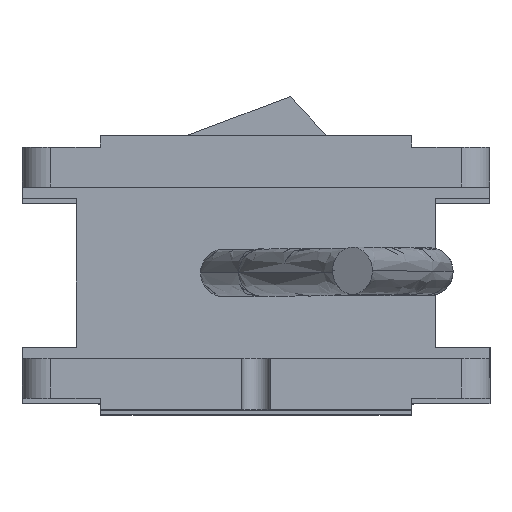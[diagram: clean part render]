
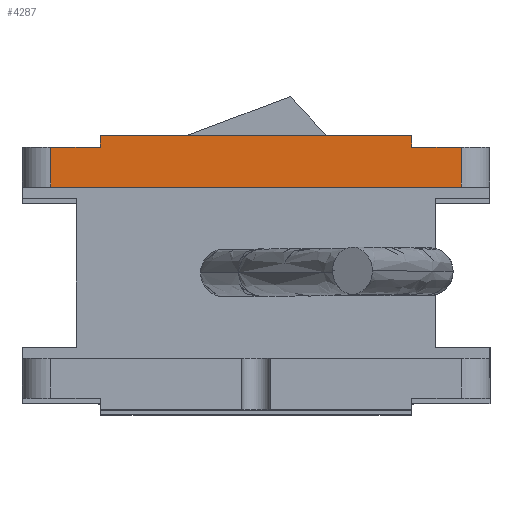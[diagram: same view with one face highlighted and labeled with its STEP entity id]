
A CAD part, top view. The second image highlights one B-rep face of the part: STEP entity #4287.
In plain terms, the highlighted planar face has unit normal (0, 0, 1).
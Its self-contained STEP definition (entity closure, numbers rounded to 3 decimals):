
#12 = CARTESIAN_POINT ( 'NONE',  ( 0., 0., 285.5 ) ) ;
#63 = EDGE_CURVE ( 'NONE', #4234, #1823, #881, .T. ) ;
#103 = FACE_OUTER_BOUND ( 'NONE', #4299, .T. ) ;
#124 = AXIS2_PLACEMENT_3D ( 'NONE', #12, #1228, #1905 ) ;
#227 = ORIENTED_EDGE ( 'NONE', *, *, #3923, .T. ) ;
#229 = DIRECTION ( 'NONE',  ( 0., 1., 0. ) ) ;
#323 = VECTOR ( 'NONE', #229, 1000. ) ;
#444 = EDGE_CURVE ( 'NONE', #732, #1281, #3751, .T. ) ;
#476 = PLANE ( 'NONE',  #124 ) ;
#502 = CARTESIAN_POINT ( 'NONE',  ( -27.25, 22., 285.5 ) ) ;
#524 = EDGE_CURVE ( 'NONE', #525, #3246, #1090, .T. ) ;
#525 = VERTEX_POINT ( 'NONE', #3904 ) ;
#528 = DIRECTION ( 'NONE',  ( -1., 0., 0. ) ) ;
#559 = CARTESIAN_POINT ( 'NONE',  ( 41., 15., 285.5 ) ) ;
#695 = ORIENTED_EDGE ( 'NONE', *, *, #4040, .T. ) ;
#732 = VERTEX_POINT ( 'NONE', #4447 ) ;
#857 = CARTESIAN_POINT ( 'NONE',  ( -27.25, 22., 285.5 ) ) ;
#881 = LINE ( 'NONE', #857, #2395 ) ;
#886 = CARTESIAN_POINT ( 'NONE',  ( -27.25, 24., 285.5 ) ) ;
#905 = LINE ( 'NONE', #2721, #2352 ) ;
#906 = CARTESIAN_POINT ( 'NONE',  ( 36., 22., 285.5 ) ) ;
#1025 = LINE ( 'NONE', #2434, #1748 ) ;
#1090 = LINE ( 'NONE', #1382, #3146 ) ;
#1228 = DIRECTION ( 'NONE',  ( 0., 0., 1. ) ) ;
#1281 = VERTEX_POINT ( 'NONE', #3576 ) ;
#1382 = CARTESIAN_POINT ( 'NONE',  ( 27.25, 22., 285.5 ) ) ;
#1453 = VECTOR ( 'NONE', #2984, 1000. ) ;
#1538 = DIRECTION ( 'NONE',  ( -1., 0., 0. ) ) ;
#1557 = CARTESIAN_POINT ( 'NONE',  ( -36., 15., 285.5 ) ) ;
#1635 = ORIENTED_EDGE ( 'NONE', *, *, #63, .T. ) ;
#1748 = VECTOR ( 'NONE', #3859, 1000. ) ;
#1752 = VECTOR ( 'NONE', #2306, 1000. ) ;
#1823 = VERTEX_POINT ( 'NONE', #2823 ) ;
#1905 = DIRECTION ( 'NONE',  ( 1., 0., 0. ) ) ;
#2045 = ORIENTED_EDGE ( 'NONE', *, *, #2610, .T. ) ;
#2165 = CARTESIAN_POINT ( 'NONE',  ( -27.25, 24., 285.5 ) ) ;
#2261 = CARTESIAN_POINT ( 'NONE',  ( 27.25, 24., 285.5 ) ) ;
#2290 = EDGE_CURVE ( 'NONE', #732, #3888, #4105, .T. ) ;
#2306 = DIRECTION ( 'NONE',  ( 0., -1., 0. ) ) ;
#2352 = VECTOR ( 'NONE', #528, 1000. ) ;
#2395 = VECTOR ( 'NONE', #2960, 1000. ) ;
#2427 = ORIENTED_EDGE ( 'NONE', *, *, #444, .F. ) ;
#2434 = CARTESIAN_POINT ( 'NONE',  ( 27.25, 24., 285.5 ) ) ;
#2610 = EDGE_CURVE ( 'NONE', #3246, #3152, #1025, .T. ) ;
#2632 = ORIENTED_EDGE ( 'NONE', *, *, #3368, .T. ) ;
#2653 = LINE ( 'NONE', #1557, #1453 ) ;
#2721 = CARTESIAN_POINT ( 'NONE',  ( 41., 22., 285.5 ) ) ;
#2823 = CARTESIAN_POINT ( 'NONE',  ( -36., 22., 285.5 ) ) ;
#2960 = DIRECTION ( 'NONE',  ( -1., 0., 0. ) ) ;
#2984 = DIRECTION ( 'NONE',  ( 0., -1., 0. ) ) ;
#3146 = VECTOR ( 'NONE', #3182, 1000. ) ;
#3152 = VERTEX_POINT ( 'NONE', #2165 ) ;
#3182 = DIRECTION ( 'NONE',  ( 0., 1., 0. ) ) ;
#3246 = VERTEX_POINT ( 'NONE', #2261 ) ;
#3368 = EDGE_CURVE ( 'NONE', #3152, #4234, #4130, .T. ) ;
#3422 = CARTESIAN_POINT ( 'NONE',  ( 36., 22., 285.5 ) ) ;
#3471 = ORIENTED_EDGE ( 'NONE', *, *, #524, .T. ) ;
#3576 = CARTESIAN_POINT ( 'NONE',  ( -36., 15., 285.5 ) ) ;
#3751 = LINE ( 'NONE', #559, #4565 ) ;
#3859 = DIRECTION ( 'NONE',  ( -1., 0., 0. ) ) ;
#3888 = VERTEX_POINT ( 'NONE', #3422 ) ;
#3904 = CARTESIAN_POINT ( 'NONE',  ( 27.25, 22., 285.5 ) ) ;
#3923 = EDGE_CURVE ( 'NONE', #3888, #525, #905, .T. ) ;
#4040 = EDGE_CURVE ( 'NONE', #1823, #1281, #2653, .T. ) ;
#4105 = LINE ( 'NONE', #906, #323 ) ;
#4130 = LINE ( 'NONE', #886, #1752 ) ;
#4234 = VERTEX_POINT ( 'NONE', #502 ) ;
#4287 = ADVANCED_FACE ( 'NONE', ( #103 ), #476, .T. ) ;
#4299 = EDGE_LOOP ( 'NONE', ( #1635, #695, #2427, #4616, #227, #3471, #2045, #2632 ) ) ;
#4447 = CARTESIAN_POINT ( 'NONE',  ( 36., 15., 285.5 ) ) ;
#4565 = VECTOR ( 'NONE', #1538, 1000. ) ;
#4616 = ORIENTED_EDGE ( 'NONE', *, *, #2290, .T. ) ;
